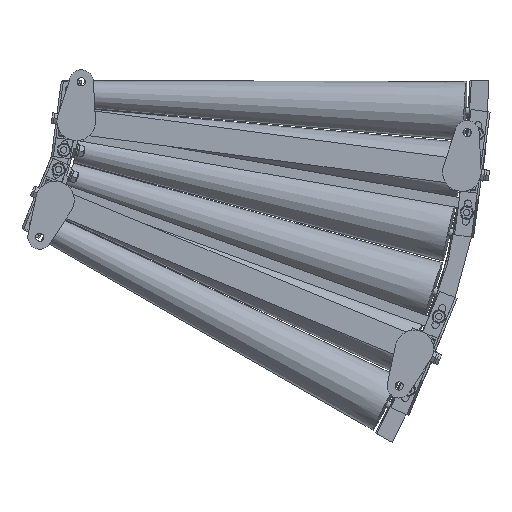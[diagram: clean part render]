
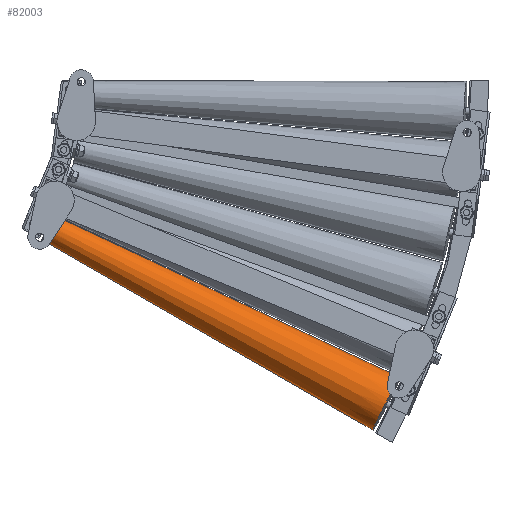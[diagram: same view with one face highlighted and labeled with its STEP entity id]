
A CAD part, front view. The second image highlights one B-rep face of the part: STEP entity #82003.
In plain terms, the highlighted conical face has half-angle 2.425 degrees and reference radius 46.95 mm.
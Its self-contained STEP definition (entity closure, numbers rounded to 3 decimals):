
#226 = VERTEX_POINT ( 'NONE', #80203 ) ;
#4440 = ORIENTED_EDGE ( 'NONE', *, *, #23760, .F. ) ;
#7721 = VERTEX_POINT ( 'NONE', #21544 ) ;
#9479 = VERTEX_POINT ( 'NONE', #23835 ) ;
#11968 = ORIENTED_EDGE ( 'NONE', *, *, #59430, .T. ) ;
#14565 = CARTESIAN_POINT ( 'NONE',  ( 983.199, -46.908, -511.821 ) ) ;
#15069 = ORIENTED_EDGE ( 'NONE', *, *, #67432, .F. ) ;
#16803 = VECTOR ( 'NONE', #57402, 1000. ) ;
#21544 = CARTESIAN_POINT ( 'NONE',  ( 457.377, -21.331, -214.026 ) ) ;
#23760 = EDGE_CURVE ( 'NONE', #7721, #25557, #33222, .T. ) ;
#23835 = CARTESIAN_POINT ( 'NONE',  ( 437.66, -21.331, -251.901 ) ) ;
#25557 = VERTEX_POINT ( 'NONE', #54576 ) ;
#27931 = AXIS2_PLACEMENT_3D ( 'NONE', #14565, #76930, #56596 ) ;
#28540 = DIRECTION ( 'NONE',  ( -0.886, 0.042, 0.461 ) ) ;
#32172 = CONICAL_SURFACE ( 'NONE', #27931, 46.95, 0.042 ) ;
#33222 = LINE ( 'NONE', #50653, #61273 ) ;
#50653 = CARTESIAN_POINT ( 'NONE',  ( 1004.878, -46.908, -470.176 ) ) ;
#52431 = DIRECTION ( 'NONE',  ( 0.462, 0., 0.887 ) ) ;
#54576 = CARTESIAN_POINT ( 'NONE',  ( 1004.878, -46.908, -470.176 ) ) ;
#54763 = LINE ( 'NONE', #89519, #16803 ) ;
#56596 = DIRECTION ( 'NONE',  ( -0.462, 0., -0.887 ) ) ;
#57402 = DIRECTION ( 'NONE',  ( 0.866, -0.042, -0.498 ) ) ;
#59430 = EDGE_CURVE ( 'NONE', #226, #25557, #72248, .T. ) ;
#61273 = VECTOR ( 'NONE', #77896, 1000. ) ;
#63924 = AXIS2_PLACEMENT_3D ( 'NONE', #77531, #28540, #70280 ) ;
#67432 = EDGE_CURVE ( 'NONE', #9479, #7721, #81448, .T. ) ;
#70280 = DIRECTION ( 'NONE',  ( 0.462, 0., 0.887 ) ) ;
#70853 = ORIENTED_EDGE ( 'NONE', *, *, #82459, .T. ) ;
#72248 = CIRCLE ( 'NONE', #63924, 46.95 ) ;
#73355 = FACE_OUTER_BOUND ( 'NONE', #78493, .T. ) ;
#75997 = AXIS2_PLACEMENT_3D ( 'NONE', #81184, #80568, #52431 ) ;
#76930 = DIRECTION ( 'NONE',  ( 0.886, -0.042, -0.461 ) ) ;
#77531 = CARTESIAN_POINT ( 'NONE',  ( 983.199, -46.908, -511.821 ) ) ;
#77896 = DIRECTION ( 'NONE',  ( 0.905, -0.042, -0.423 ) ) ;
#78493 = EDGE_LOOP ( 'NONE', ( #4440, #15069, #70853, #11968 ) ) ;
#80203 = CARTESIAN_POINT ( 'NONE',  ( 961.52, -46.908, -553.466 ) ) ;
#80568 = DIRECTION ( 'NONE',  ( -0.886, 0.042, 0.461 ) ) ;
#81184 = CARTESIAN_POINT ( 'NONE',  ( 447.518, -21.331, -232.963 ) ) ;
#81448 = CIRCLE ( 'NONE', #75997, 21.35 ) ;
#82003 = ADVANCED_FACE ( 'NONE', ( #73355 ), #32172, .T. ) ;
#82459 = EDGE_CURVE ( 'NONE', #9479, #226, #54763, .T. ) ;
#89519 = CARTESIAN_POINT ( 'NONE',  ( 961.52, -46.908, -553.466 ) ) ;
